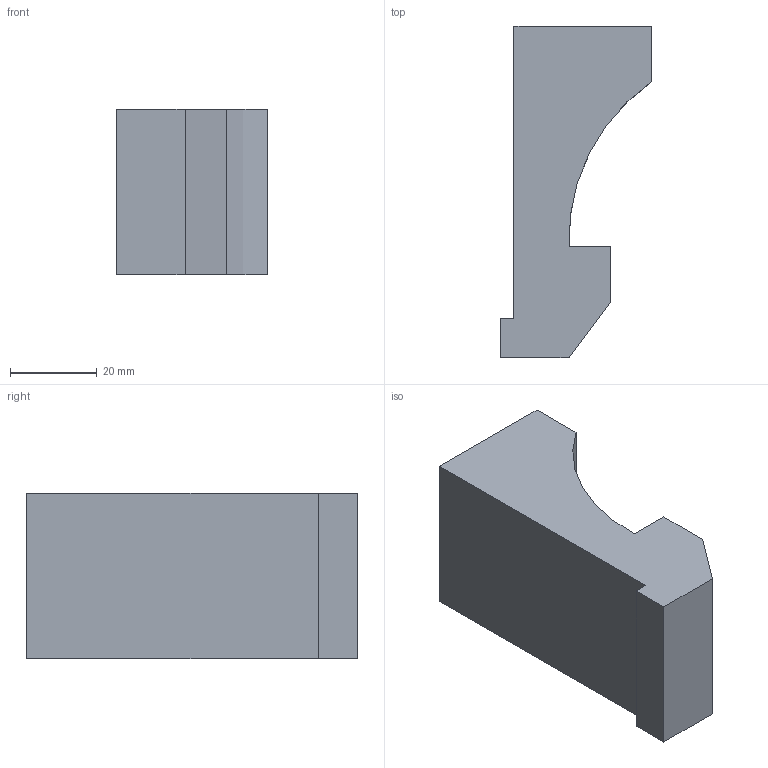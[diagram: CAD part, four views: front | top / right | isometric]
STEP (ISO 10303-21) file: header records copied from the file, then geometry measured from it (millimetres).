
FILE_DESCRIPTION(/* description */ ('Alibre Inc.'),/* implementation_level */ '2;1');
FILE_NAME(/* name */ 'export0',/* time_stamp */ '2018-10-04T12:32:31-04:00',/* author */ (''),/* organization */ (''),/* preprocessor_version */ 'ST-DEVELOPER v17',/* originating_system */ 'Alibre',/* authorisation */ '');
FILE_SCHEMA (('CONFIG_CONTROL_DESIGN'));
Length unit declared in the file: centimetre
Products named in the file (1): ID_1
Bounding box: 34.92 x 76.2 x 38.1 mm (x, y, z)
Volume: 61877.1 mm3; surface area: 11716.7 mm2
Topology: 1 solids, 1 shells, 12 faces, 30 edges, 20 vertices
Faces by surface type: plane 11, cylinder 1
Entity records: 430 total; most frequent: CARTESIAN_POINT 62, ORIENTED_EDGE 60, DIRECTION 45, EDGE_CURVE 30, VECTOR 28, LINE 28, VERTEX_POINT 20, AXIS2_PLACEMENT_3D 14
